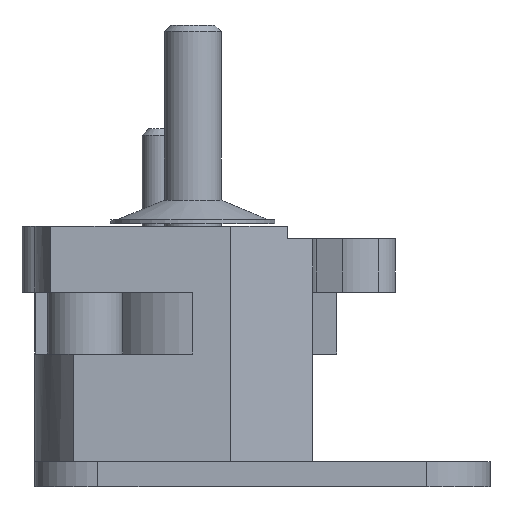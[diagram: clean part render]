
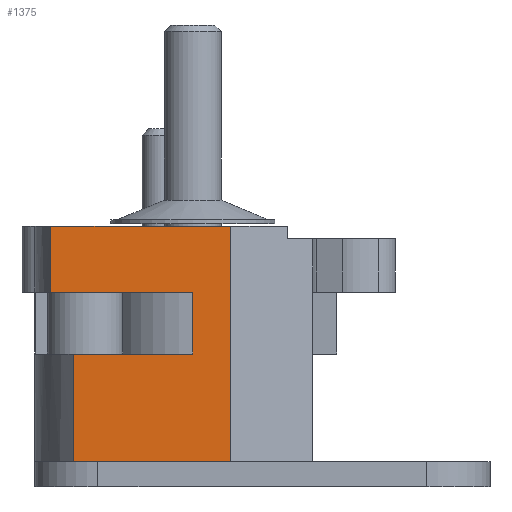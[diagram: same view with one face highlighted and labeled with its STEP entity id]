
A CAD part, front view. The second image highlights one B-rep face of the part: STEP entity #1375.
In plain terms, the highlighted planar face has unit normal (0, -1, 0).
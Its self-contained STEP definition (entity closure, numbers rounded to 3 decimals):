
#278 = EDGE_CURVE ( 'NONE', #548, #558, #4469, .T. ) ;
#281 = EDGE_CURVE ( 'NONE', #558, #555, #4476, .T. ) ;
#282 = EDGE_CURVE ( 'NONE', #555, #554, #4478, .T. ) ;
#283 = EDGE_CURVE ( 'NONE', #554, #550, #4480, .T. ) ;
#284 = EDGE_CURVE ( 'NONE', #550, #778, #4482, .T. ) ;
#285 = EDGE_CURVE ( 'NONE', #547, #760, #4484, .T. ) ;
#286 = EDGE_CURVE ( 'NONE', #547, #548, #4486, .T. ) ;
#547 = VERTEX_POINT ( 'NONE', #3098 ) ;
#548 = VERTEX_POINT ( 'NONE', #3097 ) ;
#550 = VERTEX_POINT ( 'NONE', #3095 ) ;
#554 = VERTEX_POINT ( 'NONE', #3089 ) ;
#555 = VERTEX_POINT ( 'NONE', #3088 ) ;
#558 = VERTEX_POINT ( 'NONE', #3084 ) ;
#760 = VERTEX_POINT ( 'NONE', #2822 ) ;
#778 = VERTEX_POINT ( 'NONE', #2800 ) ;
#866 = ORIENTED_EDGE ( 'NONE', *, *, #286, .F. ) ;
#867 = ORIENTED_EDGE ( 'NONE', *, *, #285, .T. ) ;
#868 = ORIENTED_EDGE ( 'NONE', *, *, #3160, .T. ) ;
#869 = ORIENTED_EDGE ( 'NONE', *, *, #284, .F. ) ;
#870 = ORIENTED_EDGE ( 'NONE', *, *, #283, .F. ) ;
#871 = ORIENTED_EDGE ( 'NONE', *, *, #282, .F. ) ;
#872 = ORIENTED_EDGE ( 'NONE', *, *, #281, .F. ) ;
#873 = ORIENTED_EDGE ( 'NONE', *, *, #278, .F. ) ;
#1200 = DIRECTION ( 'NONE',  ( 1., 0., 0. ) ) ;
#1201 = CARTESIAN_POINT ( 'NONE',  ( -4.935, -48.5, 2. ) ) ;
#1375 = ADVANCED_FACE ( 'NONE', ( #4914 ), #2509, .F. ) ;
#1859 = DIRECTION ( 'NONE',  ( 1., 0., 0. ) ) ;
#1860 = CARTESIAN_POINT ( 'NONE',  ( -4.935, -48.5, 10.5 ) ) ;
#1862 = DIRECTION ( 'NONE',  ( 0., 0., -1. ) ) ;
#1863 = CARTESIAN_POINT ( 'NONE',  ( -4.935, -48.5, 42.328 ) ) ;
#1864 = DIRECTION ( 'NONE',  ( 0., 0., -1. ) ) ;
#1866 = CARTESIAN_POINT ( 'NONE',  ( 7.5, -48.5, 42.328 ) ) ;
#1867 = DIRECTION ( 'NONE',  ( 1., 0., 0. ) ) ;
#1869 = CARTESIAN_POINT ( 'NONE',  ( -6.725, -48.5, 20.6 ) ) ;
#1870 = DIRECTION ( 'NONE',  ( 0., 0., 1. ) ) ;
#1871 = CARTESIAN_POINT ( 'NONE',  ( -6.725, -48.5, -30.864 ) ) ;
#1873 = DIRECTION ( 'NONE',  ( -1., 0., 0. ) ) ;
#1874 = CARTESIAN_POINT ( 'NONE',  ( -6.725, -48.5, 15.4 ) ) ;
#1881 = DIRECTION ( 'NONE',  ( 0., 0., 1. ) ) ;
#1883 = CARTESIAN_POINT ( 'NONE',  ( 4.5, -48.5, -19.232 ) ) ;
#2505 = DIRECTION ( 'NONE',  ( 0., 0., 1. ) ) ;
#2507 = DIRECTION ( 'NONE',  ( 0., 1., 0. ) ) ;
#2508 = CARTESIAN_POINT ( 'NONE',  ( -4.935, -48.5, 42.328 ) ) ;
#2509 = PLANE ( 'NONE',  #3581 ) ;
#2800 = CARTESIAN_POINT ( 'NONE',  ( 7.5, -48.5, 2. ) ) ;
#2822 = CARTESIAN_POINT ( 'NONE',  ( -4.935, -48.5, 2. ) ) ;
#3084 = CARTESIAN_POINT ( 'NONE',  ( 4.5, -48.5, 15.4 ) ) ;
#3088 = CARTESIAN_POINT ( 'NONE',  ( -6.725, -48.5, 15.4 ) ) ;
#3089 = CARTESIAN_POINT ( 'NONE',  ( -6.725, -48.5, 20.6 ) ) ;
#3095 = CARTESIAN_POINT ( 'NONE',  ( 7.5, -48.5, 20.6 ) ) ;
#3097 = CARTESIAN_POINT ( 'NONE',  ( 4.5, -48.5, 10.5 ) ) ;
#3098 = CARTESIAN_POINT ( 'NONE',  ( -4.935, -48.5, 10.5 ) ) ;
#3160 = EDGE_CURVE ( 'NONE', #760, #778, #5045, .T. ) ;
#3252 = EDGE_LOOP ( 'NONE', ( #866, #867, #868, #869, #870, #871, #872, #873 ) ) ;
#3581 = AXIS2_PLACEMENT_3D ( 'NONE', #2508, #2507, #2505 ) ;
#4469 = LINE ( 'NONE', #1883, #4471 ) ;
#4471 = VECTOR ( 'NONE', #1881, 1000. ) ;
#4476 = LINE ( 'NONE', #1874, #4477 ) ;
#4477 = VECTOR ( 'NONE', #1873, 1000. ) ;
#4478 = LINE ( 'NONE', #1871, #4479 ) ;
#4479 = VECTOR ( 'NONE', #1870, 1000. ) ;
#4480 = LINE ( 'NONE', #1869, #4481 ) ;
#4481 = VECTOR ( 'NONE', #1867, 1000. ) ;
#4482 = LINE ( 'NONE', #1866, #4483 ) ;
#4483 = VECTOR ( 'NONE', #1864, 1000. ) ;
#4484 = LINE ( 'NONE', #1863, #4485 ) ;
#4485 = VECTOR ( 'NONE', #1862, 1000. ) ;
#4486 = LINE ( 'NONE', #1860, #4487 ) ;
#4487 = VECTOR ( 'NONE', #1859, 1000. ) ;
#4914 = FACE_OUTER_BOUND ( 'NONE', #3252, .T. ) ;
#5045 = LINE ( 'NONE', #1201, #5047 ) ;
#5047 = VECTOR ( 'NONE', #1200, 1000. ) ;
